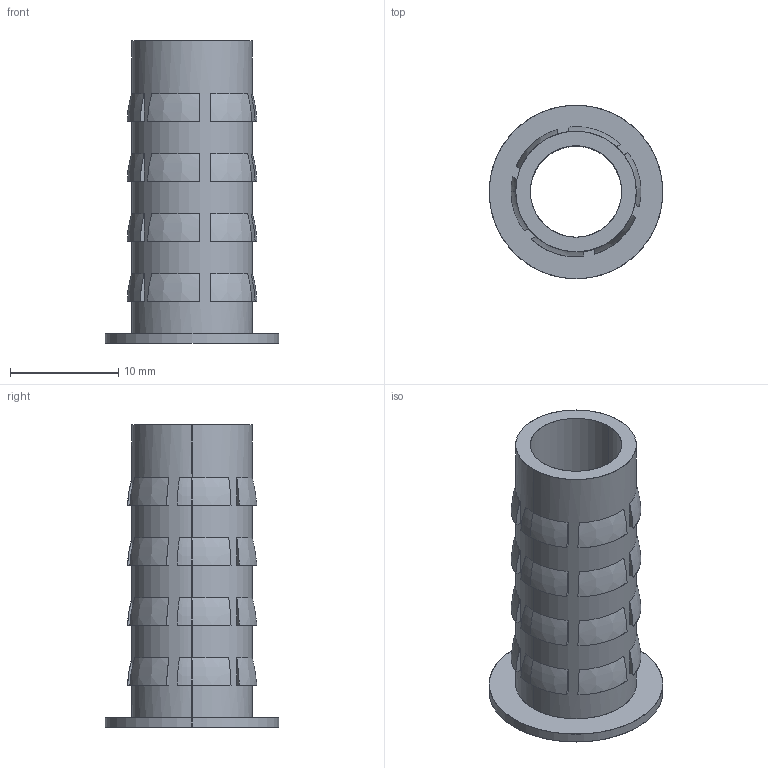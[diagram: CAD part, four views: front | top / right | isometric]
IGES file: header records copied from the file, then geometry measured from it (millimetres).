
Start section: SolidWorks IGES file using analytic representation for surfaces
Global section: file name: G:\thermofab project\INSERT\insert project\INSERT 3D\flanged insert 3(8)-24.IGS; native system: SolidWorks 2015; preprocessor: SolidWorks 2015; author: Administrator; date: 170809.194438; units: millimetre
Bounding box: 16.03 x 16.03 x 27.94 mm (x, y, z)
Surface area: 2115 mm2 (no closed solid volume)
Topology: 0 solids, 0 shells, 111 faces, 940 edges, 940 vertices
Faces by surface type: bspline 103, revolution 8
